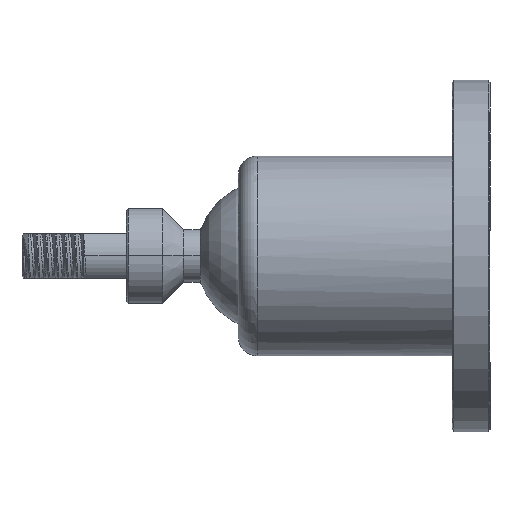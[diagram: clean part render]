
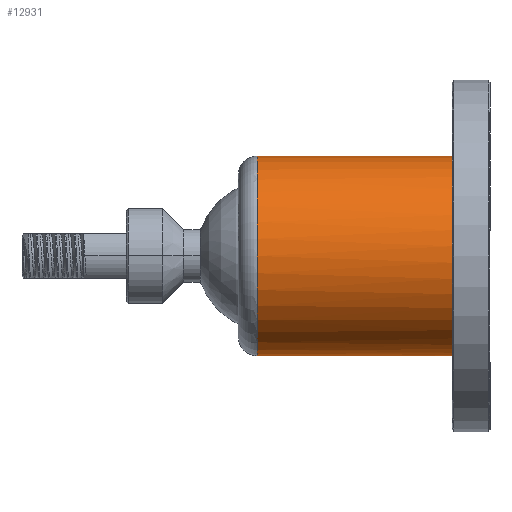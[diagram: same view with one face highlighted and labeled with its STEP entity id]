
A CAD part, left-side view. The second image highlights one B-rep face of the part: STEP entity #12931.
In plain terms, the highlighted cylindrical face has radius 10.5 mm (diameter 21 mm), a partial arc.
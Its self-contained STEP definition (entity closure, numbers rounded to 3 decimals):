
#8 = ORIENTED_EDGE ( 'NONE', *, *, #8036, .F. ) ;
#427 = CARTESIAN_POINT ( 'NONE',  ( 0., 4., 10.5 ) ) ;
#843 = EDGE_CURVE ( 'NONE', #15378, #13234, #7040, .T. ) ;
#1042 = FACE_OUTER_BOUND ( 'NONE', #7668, .T. ) ;
#1461 = EDGE_CURVE ( 'NONE', #13234, #14499, #16394, .T. ) ;
#1765 =( BOUNDED_CURVE ( )  B_SPLINE_CURVE ( 3, ( #427, #5034, #11117, #17217 ),
 .UNSPECIFIED., .F., .T. ) 
 B_SPLINE_CURVE_WITH_KNOTS ( ( 4, 4 ),
 ( 3.229, 6.37 ),
 .UNSPECIFIED. ) 
 CURVE ( )  GEOMETRIC_REPRESENTATION_ITEM ( )  RATIONAL_B_SPLINE_CURVE ( ( 1., 0.333, 0.333, 1. ) ) 
 REPRESENTATION_ITEM ( '' )  );
#3405 = DIRECTION ( 'NONE',  ( 0., 1., 0. ) ) ;
#3457 = AXIS2_PLACEMENT_3D ( 'NONE', #11924, #4144, #4045 ) ;
#3701 = CARTESIAN_POINT ( 'NONE',  ( 0., 24.5, -10.5 ) ) ;
#4045 = DIRECTION ( 'NONE',  ( 0., 0., 1. ) ) ;
#4144 = DIRECTION ( 'NONE',  ( 0., -1., 0. ) ) ;
#4477 = DIRECTION ( 'NONE',  ( 0., -1., 0. ) ) ;
#5034 = CARTESIAN_POINT ( 'NONE',  ( -21., 4., 10.5 ) ) ;
#5944 = VERTEX_POINT ( 'NONE', #19623 ) ;
#7040 = CIRCLE ( 'NONE', #18209, 10.5 ) ;
#7135 = CYLINDRICAL_SURFACE ( 'NONE', #3457, 10.5 ) ;
#7261 = ORIENTED_EDGE ( 'NONE', *, *, #1461, .F. ) ;
#7668 = EDGE_LOOP ( 'NONE', ( #8, #7261, #16918, #19519 ) ) ;
#8036 = EDGE_CURVE ( 'NONE', #14499, #5944, #1765, .T. ) ;
#8089 = CARTESIAN_POINT ( 'NONE',  ( 0., 24.5, 0. ) ) ;
#9035 = CARTESIAN_POINT ( 'NONE',  ( 0., 24.5, 10.5 ) ) ;
#9585 = DIRECTION ( 'NONE',  ( 0., 0., -1. ) ) ;
#10009 = DIRECTION ( 'NONE',  ( 0., -1., 0. ) ) ;
#11117 = CARTESIAN_POINT ( 'NONE',  ( -21., 4., -10.5 ) ) ;
#11924 = CARTESIAN_POINT ( 'NONE',  ( 0., 75.547, 0. ) ) ;
#11974 = CARTESIAN_POINT ( 'NONE',  ( 0., 4., 10.5 ) ) ;
#12053 = LINE ( 'NONE', #12158, #16299 ) ;
#12158 = CARTESIAN_POINT ( 'NONE',  ( 0., 24.5, -10.5 ) ) ;
#12931 = ADVANCED_FACE ( 'NONE', ( #1042 ), #7135, .T. ) ;
#13234 = VERTEX_POINT ( 'NONE', #9035 ) ;
#14491 = CARTESIAN_POINT ( 'NONE',  ( 0., 24.5, 10.5 ) ) ;
#14499 = VERTEX_POINT ( 'NONE', #11974 ) ;
#15378 = VERTEX_POINT ( 'NONE', #3701 ) ;
#16299 = VECTOR ( 'NONE', #4477, 1000. ) ;
#16394 = LINE ( 'NONE', #14491, #19357 ) ;
#16918 = ORIENTED_EDGE ( 'NONE', *, *, #843, .F. ) ;
#17217 = CARTESIAN_POINT ( 'NONE',  ( 0., 4., -10.5 ) ) ;
#17941 = EDGE_CURVE ( 'NONE', #15378, #5944, #12053, .T. ) ;
#18209 = AXIS2_PLACEMENT_3D ( 'NONE', #8089, #3405, #9585 ) ;
#19357 = VECTOR ( 'NONE', #10009, 1000. ) ;
#19519 = ORIENTED_EDGE ( 'NONE', *, *, #17941, .T. ) ;
#19623 = CARTESIAN_POINT ( 'NONE',  ( 0., 4., -10.5 ) ) ;
